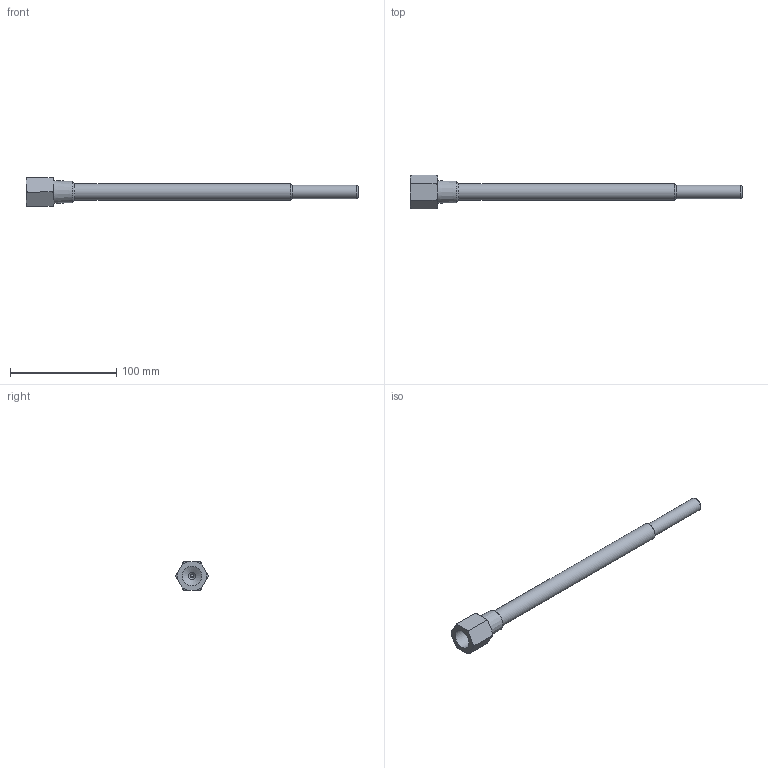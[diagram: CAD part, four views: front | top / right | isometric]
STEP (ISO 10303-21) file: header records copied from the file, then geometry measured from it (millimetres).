
FILE_DESCRIPTION( ( 'STEP AP203' ), ' ' );
FILE_NAME( 'p:/temp/worker_330/3396_3748/app_52_02015121814212786602860192d056f_000000_00_00_000000/format_2/E37250.stp', '2015-12-18T13:21:28', ( '' ), ( '' ), ' ', 'PARTsolutions', ' ' );
FILE_SCHEMA( ( 'CONFIG_CONTROL_DESIGN' ) );
Length unit declared in the file: millimetre
Products named in the file (1): _E37250
Bounding box: 312 x 31.18 x 27 mm (x, y, z)
Volume: 56538.4 mm3; surface area: 24405.3 mm2
Topology: 1 solids, 1 shells, 35 faces, 82 edges, 52 vertices
Faces by surface type: torus 15, plane 11, cone 5, cylinder 4
Full cylindrical faces by diameter (mm): 6.6 x1, 12.7 x1, 15.9 x1, 18.161 x1
Entity records: 1266 total; most frequent: CARTESIAN_POINT 493, DIRECTION 144, ORIENTED_EDGE 138, EDGE_CURVE 69, AXIS2_PLACEMENT_3D 63, VERTEX_POINT 52, EDGE_LOOP 50, FACE_OUTER_BOUND 42
